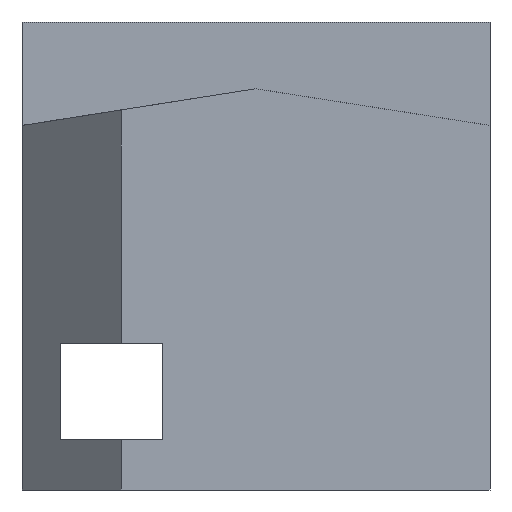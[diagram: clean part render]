
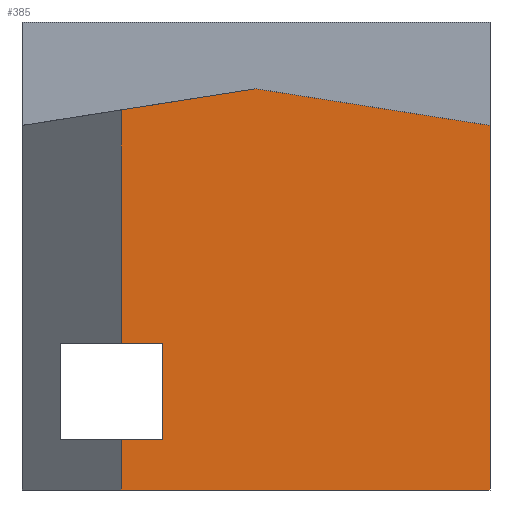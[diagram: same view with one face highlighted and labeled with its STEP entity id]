
A CAD part, front view. The second image highlights one B-rep face of the part: STEP entity #385.
In plain terms, the highlighted planar face has unit normal (0, -1, 0).
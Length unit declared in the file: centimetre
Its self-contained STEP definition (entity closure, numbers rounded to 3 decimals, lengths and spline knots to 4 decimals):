
#12 = LINE ( 'NONE', #1284, #1730 ) ;
#17 = DIRECTION ( 'NONE',  ( -1., 0., 0. ) ) ;
#47 = CARTESIAN_POINT ( 'NONE',  ( 81.7465, 0., 107.991 ) ) ;
#90 = EDGE_CURVE ( 'NONE', #1750, #1383, #12, .T. ) ;
#93 = CARTESIAN_POINT ( 'NONE',  ( 500., 0., 857.2738 ) ) ;
#103 = CARTESIAN_POINT ( 'NONE',  ( 500., 0., 857.2738 ) ) ;
#137 = ORIENTED_EDGE ( 'NONE', *, *, #90, .F. ) ;
#227 = VERTEX_POINT ( 'NONE', #1691 ) ;
#228 = VECTOR ( 'NONE', #2036, 100. ) ;
#234 = AXIS2_PLACEMENT_3D ( 'NONE', #1038, #885, #1361 ) ;
#264 = ORIENTED_EDGE ( 'NONE', *, *, #1645, .F. ) ;
#271 = CARTESIAN_POINT ( 'NONE',  ( 212.4811, 0., 107.991 ) ) ;
#278 = LINE ( 'NONE', #780, #596 ) ;
#283 = CARTESIAN_POINT ( 'NONE',  ( 81.7465, 0., 312.7266 ) ) ;
#291 = EDGE_CURVE ( 'NONE', #865, #227, #962, .T. ) ;
#327 = VECTOR ( 'NONE', #1102, 100. ) ;
#385 = ADVANCED_FACE ( 'NONE', ( #395 ), #1197, .F. ) ;
#395 = FACE_OUTER_BOUND ( 'NONE', #1577, .T. ) ;
#526 = VECTOR ( 'NONE', #801, 100. ) ;
#584 = LINE ( 'NONE', #103, #1328 ) ;
#596 = VECTOR ( 'NONE', #2037, 100. ) ;
#619 = CARTESIAN_POINT ( 'NONE',  ( 212.4811, 0., 1000. ) ) ;
#664 = ORIENTED_EDGE ( 'NONE', *, *, #1848, .T. ) ;
#687 = LINE ( 'NONE', #1337, #788 ) ;
#748 = VERTEX_POINT ( 'NONE', #1018 ) ;
#750 = ORIENTED_EDGE ( 'NONE', *, *, #1372, .T. ) ;
#770 = DIRECTION ( 'NONE',  ( 0.988, 0., 0.155 ) ) ;
#780 = CARTESIAN_POINT ( 'NONE',  ( 0., 0., 0. ) ) ;
#788 = VECTOR ( 'NONE', #2003, 100. ) ;
#801 = DIRECTION ( 'NONE',  ( 0., 0., -1. ) ) ;
#865 = VERTEX_POINT ( 'NONE', #1205 ) ;
#880 = CARTESIAN_POINT ( 'NONE',  ( 1000., 0., 0. ) ) ;
#885 = DIRECTION ( 'NONE',  ( 0., 1., 0. ) ) ;
#962 = LINE ( 'NONE', #2014, #327 ) ;
#1018 = CARTESIAN_POINT ( 'NONE',  ( 212.4811, 0., 812.2129 ) ) ;
#1028 = VECTOR ( 'NONE', #1386, 100. ) ;
#1038 = CARTESIAN_POINT ( 'NONE',  ( 0., 0., 1000. ) ) ;
#1062 = VERTEX_POINT ( 'NONE', #880 ) ;
#1102 = DIRECTION ( 'NONE',  ( 0., 0., -1. ) ) ;
#1176 = CARTESIAN_POINT ( 'NONE',  ( 212.4811, 0., 0. ) ) ;
#1197 = PLANE ( 'NONE',  #234 ) ;
#1205 = CARTESIAN_POINT ( 'NONE',  ( 300.9413, 0., 312.7266 ) ) ;
#1214 = LINE ( 'NONE', #283, #1028 ) ;
#1220 = LINE ( 'NONE', #1732, #228 ) ;
#1254 = LINE ( 'NONE', #619, #526 ) ;
#1258 = VECTOR ( 'NONE', #17, 100. ) ;
#1269 = EDGE_CURVE ( 'NONE', #1628, #1490, #1254, .T. ) ;
#1284 = CARTESIAN_POINT ( 'NONE',  ( 1000., 0., 778.9121 ) ) ;
#1328 = VECTOR ( 'NONE', #770, 100. ) ;
#1337 = CARTESIAN_POINT ( 'NONE',  ( 1000., 0., 1000. ) ) ;
#1361 = DIRECTION ( 'NONE',  ( 0., 0., 1. ) ) ;
#1372 = EDGE_CURVE ( 'NONE', #227, #1628, #1943, .T. ) ;
#1383 = VERTEX_POINT ( 'NONE', #1627 ) ;
#1386 = DIRECTION ( 'NONE',  ( 1., 0., 0. ) ) ;
#1490 = VERTEX_POINT ( 'NONE', #1176 ) ;
#1577 = EDGE_LOOP ( 'NONE', ( #1676, #750, #1971, #1870, #2030, #137, #264, #1839, #664 ) ) ;
#1586 = VERTEX_POINT ( 'NONE', #1834 ) ;
#1627 = CARTESIAN_POINT ( 'NONE',  ( 1000., 0., 778.9121 ) ) ;
#1628 = VERTEX_POINT ( 'NONE', #271 ) ;
#1633 = EDGE_CURVE ( 'NONE', #1490, #1062, #278, .T. ) ;
#1645 = EDGE_CURVE ( 'NONE', #748, #1750, #584, .T. ) ;
#1676 = ORIENTED_EDGE ( 'NONE', *, *, #291, .T. ) ;
#1691 = CARTESIAN_POINT ( 'NONE',  ( 300.9413, 0., 107.991 ) ) ;
#1730 = VECTOR ( 'NONE', #1919, 100. ) ;
#1732 = CARTESIAN_POINT ( 'NONE',  ( 212.4811, 0., 1000. ) ) ;
#1750 = VERTEX_POINT ( 'NONE', #93 ) ;
#1775 = EDGE_CURVE ( 'NONE', #1383, #1062, #687, .T. ) ;
#1834 = CARTESIAN_POINT ( 'NONE',  ( 212.4811, 0., 312.7266 ) ) ;
#1839 = ORIENTED_EDGE ( 'NONE', *, *, #1889, .T. ) ;
#1848 = EDGE_CURVE ( 'NONE', #1586, #865, #1214, .T. ) ;
#1870 = ORIENTED_EDGE ( 'NONE', *, *, #1633, .T. ) ;
#1889 = EDGE_CURVE ( 'NONE', #748, #1586, #1220, .T. ) ;
#1919 = DIRECTION ( 'NONE',  ( 0.988, 0., -0.155 ) ) ;
#1943 = LINE ( 'NONE', #47, #1258 ) ;
#1971 = ORIENTED_EDGE ( 'NONE', *, *, #1269, .T. ) ;
#2003 = DIRECTION ( 'NONE',  ( 0., 0., -1. ) ) ;
#2014 = CARTESIAN_POINT ( 'NONE',  ( 300.9413, 0., 107.991 ) ) ;
#2030 = ORIENTED_EDGE ( 'NONE', *, *, #1775, .F. ) ;
#2036 = DIRECTION ( 'NONE',  ( 0., 0., -1. ) ) ;
#2037 = DIRECTION ( 'NONE',  ( 1., 0., 0. ) ) ;
